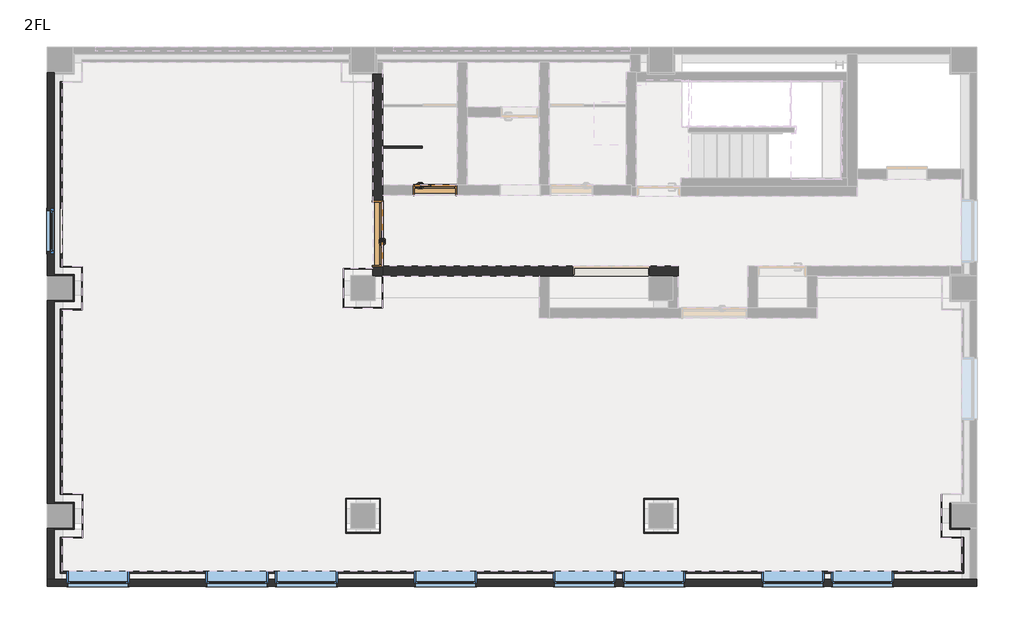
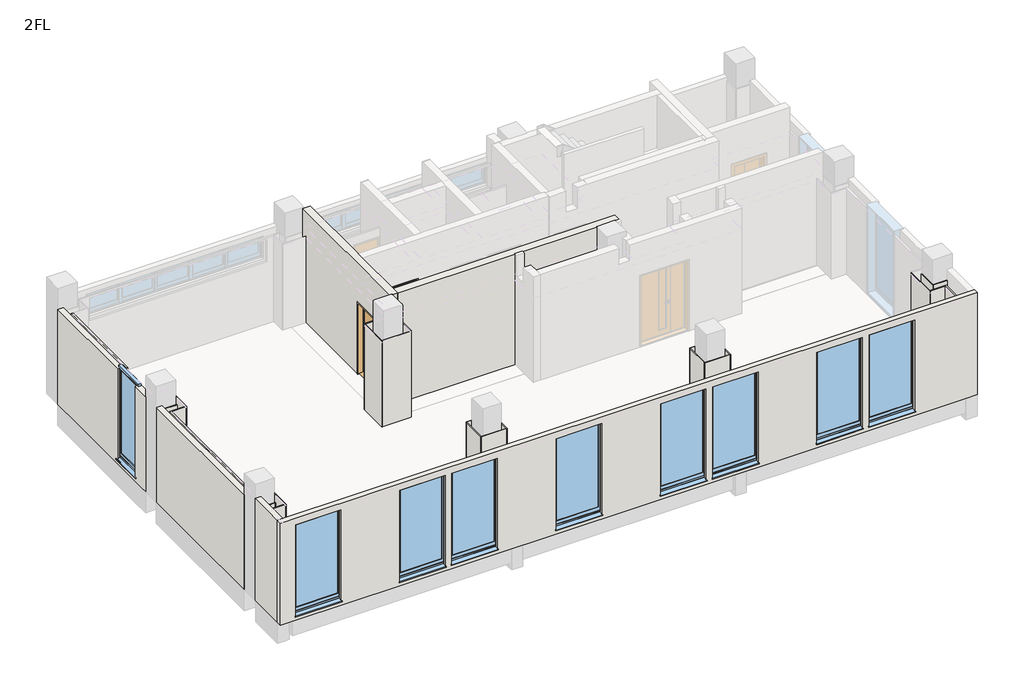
# One storey, part 1 of 4: 38 walls, 9 windows, 2 doors.
"""IFC4 building model written with IfcOpenShell, lengths in millimetres."""

from ifc_helpers import new_model, si_unit, frame, origin, place, context, project, spatial, polyline, outline, extrude, faceted_brep, transform, mapped, element, save
from components import door_c7ba6d99, door_a8025d8c, window_becbf3bb, window_02fdaeb4

model = new_model("IFC4")

# Units and contexts
model_context = context("Model", 3, world=origin())
ifc_project = project(units=[si_unit("LENGTHUNIT", "METRE", prefix="MILLI")], contexts=[model_context])

# Site, building, storey
site = spatial("IfcSite", under=ifc_project)
building = spatial("IfcBuilding", under=site)
storey = spatial("IfcBuildingStorey", under=building, Name="2FL", Elevation=3400.0)

# Doors
placement = place(None, origin())
door_shape = door_c7ba6d99(model_context)
element("IfcDoor", 1, ObjectType="140_片開扉_スリットガラリ付 : SD9_H2000W800", at=placement, inside=storey, context=model_context, shape_type="MappedRepresentation", body=[
    mapped(door_shape, transform((7540.0, 6565.5, 3400.0), x_axis=(1.0, 0.0, 0.0), y_axis=(0.0, 1.0, 0.0), z_axis=(0.0, 0.0, 1.0))),
])
door_2_shape = door_a8025d8c(model_context)
element("IfcDoor", 2, ObjectType="C_親子扉_スリット窓付_パネル : SD8_W1250XH2000", at=placement, inside=storey, context=model_context, shape_type="MappedRepresentation", body=[
    mapped(door_2_shape, transform((6390.0, 5687.5, 3400.0), x_axis=(0.0, 1.0, 0.0), y_axis=(-1.0, 0.0, 0.0), z_axis=(0.0, 0.0, 1.0))),
])

# Walls
element("IfcWall", 3, ObjectType="•_RC120+押出法ポリスチレンフォーム1種 t25", at=placement, inside=storey, context=model_context, shape_type="Brep", body=[
    faceted_brep([(-270.0, 5330.0, 3375.0), (-270.0, 6150.0, 3375.0), (-270.0, 6150.0, 3430.0), (-270.0, 6150.0, 5950.0), (-270.0, 8930.0, 5950.0), (-270.0, 8930.0, 3250.0), (-270.0, 4840.0, 3250.0), (-270.0, 4840.0, 5950.0), (-270.0, 5330.0, 5950.0), (-270.0, 5330.0, 3430.0), (-125.0, 6200.0, 3445.0), (-125.0, 5280.0, 3445.0), (-125.0, 5280.0, 5950.0), (-125.0, 4840.0, 5950.0), (-125.0, 4840.0, 5850.0), (-125.0, 4840.0, 3250.0), (-125.0, 4865.0, 3250.0), (-125.0, 8905.000056, 3250.0), (-125.0, 8930.0, 3250.0), (-125.0, 8930.0, 5850.0), (-125.0, 8930.0, 5950.0), (-125.0, 6200.0, 5950.0), (-210.0, 6200.0, 3375.0), (-140.0, 6200.0, 3375.0), (-140.0, 6200.0, 3445.0), (-210.0, 6200.0, 5950.0), (-140.0, 5280.0, 3445.0), (-140.0, 5280.0, 3375.0), (-210.0, 5280.0, 3375.0), (-210.0, 5280.0, 5950.0), (-210.0, 6150.0, 3375.0), (-210.0, 5330.0, 3375.0), (-210.0, 6150.0, 5950.0), (-210.0, 5330.0, 5950.0)], [[[0, 1, 2, 3, 4, 5, 6, 7, 8, 9]], [[10, 11, 12, 13, 14, 15, 16, 17, 18, 19, 20, 21]], [[5, 18, 17, 16, 15, 6]], [[18, 5, 4, 20, 19]], [[22, 23, 24, 10, 21, 25]], [[26, 27, 28, 29, 12, 11]], [[24, 26, 11, 10]], [[23, 22, 30, 1, 0, 31, 28, 27]], [[30, 22, 25, 32]], [[28, 31, 33, 29]], [[24, 23, 27, 26]], [[1, 30, 32, 3, 2]], [[31, 0, 9, 8, 33]], [[4, 3, 32, 25, 21, 20]], [[8, 7, 13, 12, 29, 33]], [[6, 15, 14, 13, 7]]]),
    faceted_brep([(-270.0, -1275.0, 3250.0), (-270.0, -1275.0, 6150.0), (-270.0, -1242.7, 6150.0), (-270.0, -250.0, 6150.0), (-270.0, -250.0, 3250.0), (-270.0, -270.0, 3250.0), (-125.0, -1275.0, 6150.0), (-125.0, -1275.0, 3250.0), (-125.0, -275.0000858, 3250.0), (-125.0, -250.0, 3250.0), (-125.0, -250.0, 5850.0), (-125.0, -250.0, 6150.0)], [[[0, 1, 2, 3, 4, 5]], [[6, 7, 8, 9, 10, 11]], [[7, 0, 5, 4, 9, 8]], [[1, 6, 11, 3, 2]], [[4, 3, 11, 10, 9]], [[1, 0, 7, 6]]]),
    faceted_brep([(-270.0, 4340.0, 5950.0), (-270.0, 4340.0, 3250.0), (-270.0, 250.0, 3250.0), (-270.0, 250.0, 5950.0), (-125.0, 4340.0, 3250.0), (-125.0, 4340.0, 5850.0), (-125.0, 4340.0, 5950.0), (-125.0, 250.0000006, 5950.0), (-125.0, 250.0, 5850.0), (-125.0, 250.0, 3250.0), (-125.0, 274.9999201, 3250.0), (-125.0, 4314.9999543, 3250.0)], [[[0, 1, 2, 3]], [[4, 5, 6, 7, 8, 9, 10, 11]], [[1, 4, 11, 10, 9, 2]], [[4, 1, 0, 6, 5]], [[0, 3, 7, 6]], [[3, 2, 9, 8, 7]]]),
])
element("IfcWall", 4, ObjectType="•_RC120+押出法ポリスチレンフォーム1種 t25", at=placement, inside=storey, context=model_context, shape_type="Brep", body=[
    faceted_brep([(-270.0, -1420.0, 3250.0), (50.0, -1420.0, 3250.0), (5940.0, -1420.0, 3250.0), (6240.0, -1420.0, 3250.0), (11891.0054083, -1420.0, 3250.0), (11940.0, -1420.0, 3250.0), (12240.0, -1420.0, 3250.0), (18130.0, -1420.0, 3250.0), (18450.0, -1420.0, 3250.0), (18450.0, -1420.0, 6150.0), (12180.0, -1420.0, 6150.0), (12000.0, -1420.0, 6150.0), (6180.0, -1420.0, 6150.0), (6000.0, -1420.0, 6150.0), (-270.0, -1420.0, 6150.0), (1360.0, -1420.0, 3375.0), (140.0, -1420.0, 3375.0), (140.0, -1420.0, 3430.0), (140.0, -1420.0, 5960.0), (1360.0, -1420.0, 5960.0), (1360.0, -1420.0, 3430.0), (4160.0, -1420.0, 3375.0), (2940.0, -1420.0, 3375.0), (2940.0, -1420.0, 5960.0), (4160.0, -1420.0, 5960.0), (5560.0, -1420.0, 3375.0), (4340.0, -1420.0, 3375.0), (4340.0, -1420.0, 5960.0), (5560.0, -1420.0, 5960.0), (8359.9597717, -1420.0, 3375.0), (7139.9597717, -1420.0, 3375.0), (7139.9597717, -1420.0, 5960.0), (8359.9597717, -1420.0, 5960.0), (11160.0, -1420.0, 3375.0), (9940.0, -1420.0, 3375.0), (9940.0, -1420.0, 5960.0), (11160.0, -1420.0, 5960.0), (12560.0, -1420.0, 3375.0), (11340.0, -1420.0, 3375.0), (11340.0, -1420.0, 5960.0), (12560.0, -1420.0, 5960.0), (15360.0, -1420.0, 3375.0), (14140.0, -1420.0, 3375.0), (14140.0, -1420.0, 5960.0), (15360.0, -1420.0, 5960.0), (16759.9597717, -1420.0, 3375.0), (15539.9597717, -1420.0, 3375.0), (15539.9597717, -1420.0, 5960.0), (16759.9597717, -1420.0, 5960.0), (18450.0, -1275.0, 3250.0), (18305.0, -1275.0, 3250.0), (50.0, -1275.0, 3250.0), (-125.0, -1275.0, 3250.0), (-270.0, -1275.0, 3250.0), (-270.0, -1275.0, 6150.0), (-125.0, -1275.0, 6150.0), (18305.0, -1275.0, 6150.0), (18450.0, -1275.0, 6150.0), (1380.0, -1275.0, 5980.0), (120.0, -1275.0, 5980.0), (120.0, -1275.0, 3375.0), (1380.0, -1275.0, 3375.0), (15519.9597717, -1275.0, 5980.0), (15519.9597717, -1275.0, 3375.0), (16779.9597717, -1275.0, 3375.0), (16779.9597717, -1275.0, 5980.0), (14120.0, -1275.0, 5980.0), (14120.0, -1275.0, 3375.0), (15380.0, -1275.0, 3375.0), (15380.0, -1275.0, 5980.0), (11320.0, -1275.0, 5980.0), (11320.0, -1275.0, 3375.0), (12580.0, -1275.0, 3375.0), (12580.0, -1275.0, 5980.0), (9920.0, -1275.0, 5980.0), (9920.0, -1275.0, 3375.0), (11180.0, -1275.0, 3375.0), (11180.0, -1275.0, 5980.0), (7119.9597717, -1275.0, 5980.0), (7119.9597717, -1275.0, 3375.0), (8379.9597717, -1275.0, 3375.0), (8379.9597717, -1275.0, 5980.0), (4320.0, -1275.0, 5980.0), (4320.0, -1275.0, 3375.0), (5580.0, -1275.0, 3375.0), (5580.0, -1275.0, 5980.0), (2920.0, -1275.0, 5980.0), (2920.0, -1275.0, 3375.0), (4180.0, -1275.0, 3375.0), (4180.0, -1275.0, 5980.0), (1380.0, -1360.0, 5980.0), (120.0, -1360.0, 5980.0), (120.0, -1360.0, 3375.0), (1380.0, -1360.0, 3375.0), (140.0, -1360.0, 3375.0), (1360.0, -1360.0, 3375.0), (1360.0, -1360.0, 5960.0), (140.0, -1360.0, 5960.0), (2920.0, -1360.0, 3375.0), (2940.0, -1360.0, 3375.0), (4160.0, -1360.0, 3375.0), (4180.0, -1360.0, 3375.0), (2920.0, -1360.0, 5980.0), (4180.0, -1360.0, 5980.0), (4160.0, -1360.0, 5960.0), (2940.0, -1360.0, 5960.0), (4320.0, -1360.0, 3375.0), (4340.0, -1360.0, 3375.0), (5560.0, -1360.0, 3375.0), (5580.0, -1360.0, 3375.0), (4320.0, -1360.0, 5980.0), (5580.0, -1360.0, 5980.0), (5560.0, -1360.0, 5960.0), (4340.0, -1360.0, 5960.0), (7119.9597717, -1360.0, 3375.0), (7139.9597717, -1360.0, 3375.0), (8359.9597717, -1360.0, 3375.0), (8379.9597717, -1360.0, 3375.0), (7119.9597717, -1360.0, 5980.0), (8379.9597717, -1360.0, 5980.0), (8359.9597717, -1360.0, 5960.0), (7139.9597717, -1360.0, 5960.0), (9920.0, -1360.0, 3375.0), (9940.0, -1360.0, 3375.0), (11160.0, -1360.0, 3375.0), (11180.0, -1360.0, 3375.0), (9920.0, -1360.0, 5980.0), (11180.0, -1360.0, 5980.0), (11160.0, -1360.0, 5960.0), (9940.0, -1360.0, 5960.0), (11320.0, -1360.0, 3375.0), (11340.0, -1360.0, 3375.0), (12560.0, -1360.0, 3375.0), (12580.0, -1360.0, 3375.0), (11320.0, -1360.0, 5980.0), (12580.0, -1360.0, 5980.0), (12560.0, -1360.0, 5960.0), (11340.0, -1360.0, 5960.0), (14120.0, -1360.0, 3375.0), (14140.0, -1360.0, 3375.0), (15360.0, -1360.0, 3375.0), (15380.0, -1360.0, 3375.0), (14120.0, -1360.0, 5980.0), (15380.0, -1360.0, 5980.0), (15360.0, -1360.0, 5960.0), (14140.0, -1360.0, 5960.0), (15519.9597717, -1360.0, 3375.0), (15539.9597717, -1360.0, 3375.0), (16759.9597717, -1360.0, 3375.0), (16779.9597717, -1360.0, 3375.0), (15519.9597717, -1360.0, 5980.0), (16779.9597717, -1360.0, 5980.0), (16759.9597717, -1360.0, 5960.0), (15539.9597717, -1360.0, 5960.0)], [[[0, 1, 2, 3, 4, 5, 6, 7, 8, 9, 10, 11, 12, 13, 14], [15, 16, 17, 18, 19, 20], [21, 22, 23, 24], [25, 26, 27, 28], [29, 30, 31, 32], [33, 34, 35, 36], [37, 38, 39, 40], [41, 42, 43, 44], [45, 46, 47, 48]], [[49, 50, 51, 52, 53, 54, 55, 56, 57], [58, 59, 60, 61], [62, 63, 64, 65], [66, 67, 68, 69], [70, 71, 72, 73], [74, 75, 76, 77], [78, 79, 80, 81], [82, 83, 84, 85], [86, 87, 88, 89]], [[8, 7, 6, 5, 4, 3, 2, 1, 0, 53, 52, 51, 50, 49]], [[90, 91, 59, 58]], [[91, 92, 60, 59]], [[93, 90, 58, 61]], [[94, 16, 15, 95, 93, 61, 60, 92]], [[92, 91, 90, 93, 95, 96, 97, 94]], [[16, 94, 97, 18, 17]], [[95, 15, 20, 19, 96]], [[97, 96, 19, 18]], [[98, 99, 22, 21, 100, 101, 88, 87]], [[98, 102, 103, 101, 100, 104, 105, 99]], [[22, 99, 105, 23]], [[100, 21, 24, 104]], [[105, 104, 24, 23]], [[106, 107, 26, 25, 108, 109, 84, 83]], [[106, 110, 111, 109, 108, 112, 113, 107]], [[26, 107, 113, 27]], [[108, 25, 28, 112]], [[113, 112, 28, 27]], [[114, 115, 30, 29, 116, 117, 80, 79]], [[114, 118, 119, 117, 116, 120, 121, 115]], [[30, 115, 121, 31]], [[116, 29, 32, 120]], [[121, 120, 32, 31]], [[122, 123, 34, 33, 124, 125, 76, 75]], [[122, 126, 127, 125, 124, 128, 129, 123]], [[34, 123, 129, 35]], [[124, 33, 36, 128]], [[129, 128, 36, 35]], [[130, 131, 38, 37, 132, 133, 72, 71]], [[130, 134, 135, 133, 132, 136, 137, 131]], [[38, 131, 137, 39]], [[132, 37, 40, 136]], [[137, 136, 40, 39]], [[138, 139, 42, 41, 140, 141, 68, 67]], [[138, 142, 143, 141, 140, 144, 145, 139]], [[42, 139, 145, 43]], [[140, 41, 44, 144]], [[145, 144, 44, 43]], [[146, 147, 46, 45, 148, 149, 64, 63]], [[146, 150, 151, 149, 148, 152, 153, 147]], [[46, 147, 153, 47]], [[148, 45, 48, 152]], [[153, 152, 48, 47]], [[9, 57, 56, 55, 54, 14, 13, 12, 11, 10]], [[150, 146, 63, 62]], [[149, 151, 65, 64]], [[151, 150, 62, 65]], [[142, 138, 67, 66]], [[141, 143, 69, 68]], [[143, 142, 66, 69]], [[134, 130, 71, 70]], [[133, 135, 73, 72]], [[135, 134, 70, 73]], [[126, 122, 75, 74]], [[125, 127, 77, 76]], [[127, 126, 74, 77]], [[118, 114, 79, 78]], [[117, 119, 81, 80]], [[119, 118, 78, 81]], [[110, 106, 83, 82]], [[109, 111, 85, 84]], [[111, 110, 82, 85]], [[102, 98, 87, 86]], [[101, 103, 89, 88]], [[103, 102, 86, 89]], [[8, 49, 57, 9]], [[53, 0, 14, 54]]]),
])
element("IfcWall", 5, ObjectType="•RC30+12.5", at=placement, inside=storey, context=model_context, shape_type="Brep", body=[
    faceted_brep([(-10.0001232, -1160.0000822, 3250.0), (18190.0000006, -1160.0000822, 3250.0), (18190.0000006, -1160.0000822, 5850.0), (16779.9597717, -1160.0000822, 5850.0), (16779.9597717, -1160.0000822, 3445.0), (15519.9597717, -1160.0000822, 3445.0), (15519.9597717, -1160.0000822, 5850.0), (15380.0, -1160.0000822, 5850.0), (15380.0, -1160.0000822, 3445.0), (14120.0, -1160.0000822, 3445.0), (14120.0, -1160.0000822, 5850.0), (12580.0, -1160.0000822, 5850.0), (12580.0, -1160.0000822, 3445.0), (11320.0, -1160.0000822, 3445.0), (11320.0, -1160.0000822, 5850.0), (11180.0, -1160.0000822, 5850.0), (11180.0, -1160.0000822, 3445.0), (9920.0, -1160.0000822, 3445.0), (9920.0, -1160.0000822, 5850.0), (8379.9597717, -1160.0000822, 5850.0), (8379.9597717, -1160.0000822, 3445.0), (7119.9597717, -1160.0000822, 3445.0), (7119.9597717, -1160.0000822, 5850.0), (5580.0, -1160.0000822, 5850.0), (5580.0, -1160.0000822, 3445.0), (4320.0, -1160.0000822, 3445.0), (4320.0, -1160.0000822, 5850.0), (4180.0, -1160.0000822, 5850.0), (4180.0, -1160.0000822, 3445.0), (2920.0, -1160.0000822, 3445.0), (2920.0, -1160.0000822, 5850.0), (1380.0, -1160.0000822, 5850.0), (1380.0, -1160.0000822, 3445.0), (120.0, -1160.0000822, 3445.0), (120.0, -1160.0000822, 5850.0), (-10.0001232, -1160.0000822, 5850.0), (18147.5000006, -1160.0000822, 3350.0), (32.4998768, -1160.0000822, 3350.0), (32.4998768, -1160.0000822, 3400.0), (18147.5000006, -1160.0000822, 3400.0), (18190.0000006, -1117.5000822, 3250.0), (18147.5000006, -1117.5000822, 3250.0), (32.4998768, -1117.5000822, 3250.0), (-10.0001232, -1117.5000822, 3250.0), (-10.0001232, -1117.5000822, 5850.0), (32.4998768, -1117.5000822, 5850.0), (120.0, -1117.5000822, 5850.0), (120.0, -1117.5000822, 3445.0), (1380.0, -1117.5000822, 3445.0), (1380.0, -1117.5000822, 5850.0), (2920.0, -1117.5000822, 5850.0), (2920.0, -1117.5000822, 3445.0), (4180.0, -1117.5000822, 3445.0), (4180.0, -1117.5000822, 5850.0), (4320.0, -1117.5000822, 5850.0), (4320.0, -1117.5000822, 3445.0), (5580.0, -1117.5000822, 3445.0), (5580.0, -1117.5000822, 5850.0), (7119.9597717, -1117.5000822, 5850.0), (7119.9597717, -1117.5000822, 3445.0), (8379.9597717, -1117.5000822, 3445.0), (8379.9597717, -1117.5000822, 5850.0), (9920.0, -1117.5000822, 5850.0), (9920.0, -1117.5000822, 3445.0), (11180.0, -1117.5000822, 3445.0), (11180.0, -1117.5000822, 5850.0), (11320.0, -1117.5000822, 5850.0), (11320.0, -1117.5000822, 3445.0), (12580.0, -1117.5000822, 3445.0), (12580.0, -1117.5000822, 5850.0), (14120.0, -1117.5000822, 5850.0), (14120.0, -1117.5000822, 3445.0), (15380.0, -1117.5000822, 3445.0), (15380.0, -1117.5000822, 5850.0), (15519.9597717, -1117.5000822, 5850.0), (15519.9597717, -1117.5000822, 3445.0), (16779.9597717, -1117.5000822, 3445.0), (16779.9597717, -1117.5000822, 5850.0), (18147.5000006, -1117.5000822, 5850.0), (18190.0000006, -1117.5000822, 5850.0), (32.4998768, -1117.5000822, 3350.0), (18147.5000006, -1117.5000822, 3350.0), (18147.5000006, -1117.5000822, 3400.0), (32.4998768, -1117.5000822, 3400.0)], [[[0, 1, 2, 3, 4, 5, 6, 7, 8, 9, 10, 11, 12, 13, 14, 15, 16, 17, 18, 19, 20, 21, 22, 23, 24, 25, 26, 27, 28, 29, 30, 31, 32, 33, 34, 35], [36, 37, 38, 39]], [[40, 41, 42, 43, 44, 45, 46, 47, 48, 49, 50, 51, 52, 53, 54, 55, 56, 57, 58, 59, 60, 61, 62, 63, 64, 65, 66, 67, 68, 69, 70, 71, 72, 73, 74, 75, 76, 77, 78, 79], [80, 81, 82, 83]], [[1, 0, 43, 42, 41, 40]], [[44, 35, 34, 46, 45]], [[2, 79, 78, 77, 3]], [[49, 31, 30, 50]], [[53, 27, 26, 54]], [[57, 23, 22, 58]], [[61, 19, 18, 62]], [[65, 15, 14, 66]], [[69, 11, 10, 70]], [[73, 7, 6, 74]], [[0, 35, 44, 43]], [[2, 1, 40, 79]], [[32, 48, 47, 33]], [[33, 47, 46, 34]], [[48, 32, 31, 49]], [[28, 52, 51, 29]], [[29, 51, 50, 30]], [[52, 28, 27, 53]], [[24, 56, 55, 25]], [[25, 55, 54, 26]], [[56, 24, 23, 57]], [[20, 60, 59, 21]], [[21, 59, 58, 22]], [[60, 20, 19, 61]], [[16, 64, 63, 17]], [[17, 63, 62, 18]], [[64, 16, 15, 65]], [[12, 68, 67, 13]], [[13, 67, 66, 14]], [[68, 12, 11, 69]], [[8, 72, 71, 9]], [[9, 71, 70, 10]], [[72, 8, 7, 73]], [[4, 76, 75, 5]], [[5, 75, 74, 6]], [[76, 4, 3, 77]], [[36, 81, 80, 37]], [[38, 83, 82, 39]], [[81, 36, 39, 82]], [[37, 80, 83, 38]]]),
])
element("IfcWall", 6, ObjectType="•RC30+12.5", at=placement, inside=storey, context=model_context, shape_type="Brep", body=[
    faceted_brep([(-10.0, 4164.0, 3250.0), (-10.0, 429.9996399, 3250.0), (-10.0, 429.9996399, 5850.0), (-10.0, 4164.0, 5850.0), (32.5, 4164.0, 3250.0), (32.5, 4164.0, 5850.0), (32.5, 4151.5, 5850.0), (32.5, 442.4996399, 5850.0), (32.5, 429.9996399, 5850.0), (32.5, 429.9996399, 3250.0), (32.5, 442.4996399, 3250.0), (32.5, 4151.5, 3250.0)], [[[0, 1, 2, 3]], [[4, 5, 6, 7, 8, 9, 10, 11]], [[1, 0, 4, 11, 10, 9]], [[3, 2, 8, 7, 6, 5]], [[0, 3, 5, 4]], [[2, 1, 9, 8]]]),
])
element("IfcWall", 7, ObjectType="•RC30+12.5", at=placement, inside=storey, context=model_context, shape_type="Brep", body=[
    faceted_brep([(-10.0001232, -429.9999706, 3250.0), (-10.0001232, -1117.5000822, 3250.0), (-10.0001232, -1117.5000822, 5850.0), (-10.0001232, -429.9999706, 5850.0), (32.4998768, -429.9999706, 3250.0), (32.4998768, -429.9999706, 5850.0), (32.4998768, -442.4999706, 5850.0), (32.4998768, -1117.5000822, 5850.0), (32.4998768, -1117.5000822, 3250.0), (32.4998768, -442.4999706, 3250.0)], [[[0, 1, 2, 3]], [[4, 5, 6, 7, 8, 9]], [[1, 0, 4, 9, 8]], [[3, 2, 7, 6, 5]], [[2, 1, 8, 7]], [[0, 3, 5, 4]]]),
])
element("IfcWall", 8, ObjectType="•RC30+12.5", at=placement, inside=storey, context=model_context, shape_type="Brep", body=[
    faceted_brep([(32.4999974, 5016.0, 3250.0), (32.4999974, 5028.5, 3250.0), (32.4999974, 8741.5, 3250.0), (32.4999974, 8754.0, 3250.0), (32.4999974, 8754.0, 5850.0), (32.4999974, 8741.5, 5850.0), (32.4999974, 6200.0, 5850.0), (32.4999974, 6200.0, 3445.0), (32.4999974, 5280.0, 3445.0), (32.4999974, 5280.0, 5850.0), (32.4999974, 5028.5, 5850.0), (32.4999974, 5016.0, 5850.0), (-10.0000026, 8754.0, 3250.0), (-10.0000026, 5016.0, 3250.0), (-10.0000026, 5016.0, 5850.0), (-10.0000026, 5280.0, 5850.0), (-10.0000026, 5280.0, 3445.0), (-10.0000026, 6200.0, 3445.0), (-10.0000026, 6200.0, 5850.0), (-10.0000026, 8754.0, 5850.0)], [[[0, 1, 2, 3, 4, 5, 6, 7, 8, 9, 10, 11]], [[12, 13, 14, 15, 16, 17, 18, 19]], [[3, 2, 1, 0, 13, 12]], [[14, 11, 10, 9, 15]], [[4, 19, 18, 6, 5]], [[0, 11, 14, 13]], [[4, 3, 12, 19]], [[7, 17, 16, 8]], [[8, 16, 15, 9]], [[17, 7, 6, 18]]]),
])
element("IfcWall", 9, ObjectType="•RC30+12.5", at=placement, inside=storey, context=model_context, shape_type="Brep", body=[
    faceted_brep([(18190.0000006, -1117.5000822, 3250.0), (18190.0000006, -430.0001201, 3250.0), (18190.0000006, -430.0001201, 5850.0), (18190.0000006, -1117.5000822, 5850.0), (18147.5000006, -1117.5000822, 3250.0), (18147.5000006, -1117.5000822, 5850.0), (18147.5000006, -442.5001201, 5850.0), (18147.5000006, -430.0001201, 5850.0), (18147.5000006, -430.0001201, 3250.0), (18147.5000006, -442.5001201, 3250.0)], [[[0, 1, 2, 3]], [[4, 5, 6, 7, 8, 9]], [[1, 0, 4, 9, 8]], [[3, 2, 7, 6, 5]], [[2, 1, 8, 7]], [[0, 3, 5, 4]]]),
])
element("IfcWall", 10, ObjectType="•t=25mm", at=placement, inside=storey, context=model_context, shape_type="Brep", body=[
    faceted_brep([(-125.0, 249.9999201, 3250.0), (250.0000575, 249.9999201, 3250.0), (275.0000575, 249.9999201, 3250.0), (275.0000575, 249.9999201, 5850.0), (250.0000575, 249.9999201, 5850.0), (-125.0, 249.9999201, 5850.0), (-125.0, 274.9999201, 3250.0), (-125.0, 274.9999201, 5850.0), (275.0000575, 274.9999201, 5850.0), (275.0000575, 274.9999201, 3250.0)], [[[0, 1, 2, 3, 4, 5]], [[6, 7, 8, 9]], [[2, 1, 0, 6, 9]], [[5, 4, 3, 8, 7]], [[0, 5, 7, 6]], [[3, 2, 9, 8]]]),
])
element("IfcWall", 11, ObjectType="•t=25mm", at=placement, inside=storey, context=model_context, shape_type="Brep", body=[
    faceted_brep([(250.0000575, 249.9999201, 3250.0), (250.0000575, -250.0000858, 3250.0), (250.0000575, -275.0000858, 3250.0), (250.0000575, -275.0000858, 5850.0), (250.0000575, -250.0000858, 5850.0), (250.0000575, 249.9999201, 5850.0), (275.0000575, 249.9999201, 3250.0), (275.0000575, 249.9999201, 5850.0), (275.0000575, -275.0000858, 5850.0), (275.0000575, -275.0000858, 3250.0)], [[[0, 1, 2, 3, 4, 5]], [[6, 7, 8, 9]], [[2, 1, 0, 6, 9]], [[5, 4, 3, 8, 7]], [[0, 5, 7, 6]], [[3, 2, 9, 8]]]),
])
element("IfcWall", 12, ObjectType="•t=25mm", at=placement, inside=storey, context=model_context, shape_type="SweptSolid", body=[
    extrude(outline(polyline([(-125.0, -250.0000858), (250.0000575, -250.0000858), (250.0000575, -275.0000858), (-125.0, -275.0000858), (-125.0, -250.0000858)])), frame((0.0, 0.0, 3250.0), z_axis=(0.0, 0.0, 1.0), x_axis=(1.0, 0.0, 0.0)), (0.0, 0.0, 1.0), 2600.0),
])
element("IfcWall", 13, ObjectType="•t=25mm", at=placement, inside=storey, context=model_context, shape_type="Brep", body=[
    faceted_brep([(-125.0, 4314.9999543, 3250.0), (275.0, 4314.9999543, 3250.0), (275.0, 4314.9999543, 5850.0), (-125.0, 4314.9999543, 5850.0), (-125.0, 4339.9999543, 3250.0), (-125.0, 4339.9999543, 5850.0), (250.0, 4339.9999543, 5850.0), (275.0, 4339.9999543, 5850.0), (275.0, 4339.9999543, 3250.0), (250.0, 4339.9999543, 3250.0)], [[[0, 1, 2, 3]], [[4, 5, 6, 7, 8, 9]], [[1, 0, 4, 9, 8]], [[3, 2, 7, 6, 5]], [[0, 3, 5, 4]], [[2, 1, 8, 7]]]),
])
element("IfcWall", 14, ObjectType="•t=25mm", at=placement, inside=storey, context=model_context, shape_type="Brep", body=[
    faceted_brep([(275.0, 4339.9999543, 3250.0), (275.0, 4865.0, 3250.0), (275.0, 4865.0, 5850.0), (275.0, 4339.9999543, 5850.0), (250.0, 4339.9999543, 3250.0), (250.0, 4339.9999543, 5850.0), (250.0, 4840.0, 5850.0), (250.0, 4865.0, 5850.0), (250.0, 4865.0, 3250.0), (250.0, 4840.0, 3250.0)], [[[0, 1, 2, 3]], [[4, 5, 6, 7, 8, 9]], [[1, 0, 4, 9, 8]], [[3, 2, 7, 6, 5]], [[0, 3, 5, 4]], [[2, 1, 8, 7]]]),
])
element("IfcWall", 15, ObjectType="•t=25mm", at=placement, inside=storey, context=model_context, shape_type="SweptSolid", body=[
    extrude(outline(polyline([(-125.0, 4865.0), (250.0, 4865.0), (250.0, 4840.0), (-125.0, 4840.0), (-125.0, 4865.0)])), frame((0.0, 0.0, 3250.0), z_axis=(0.0, 0.0, 1.0), x_axis=(1.0, 0.0, 0.0)), (0.0, 0.0, 1.0), 2600.0),
])
element("IfcWall", 16, ObjectType="•t=25mm", at=placement, inside=storey, context=model_context, shape_type="Brep", body=[
    faceted_brep([(17904.999971, 249.9999009, 3250.0), (17904.999971, -275.0000644, 3250.0), (17904.999971, -275.0000644, 5850.0), (17904.999971, 249.9999009, 5850.0), (17929.999971, 249.9999009, 3250.0), (17929.999971, 249.9999009, 5850.0), (17929.999971, -250.0000644, 5850.0), (17929.999971, -275.0000644, 5850.0), (17929.999971, -275.0000644, 3250.0), (17929.999971, -250.0000644, 3250.0)], [[[0, 1, 2, 3]], [[4, 5, 6, 7, 8, 9]], [[1, 0, 4, 9, 8]], [[3, 2, 7, 6, 5]], [[0, 3, 5, 4]], [[2, 1, 8, 7]]]),
])
element("IfcWall", 17, ObjectType="•t=25mm", at=placement, inside=storey, context=model_context, shape_type="SweptSolid", body=[
    extrude(outline(polyline([(18305.0, -275.0000644), (17929.999971, -275.0000644), (17929.999971, -250.0000644), (18305.0, -250.0000644), (18305.0, -275.0000644)])), frame((0.0, 0.0, 3250.0), z_axis=(0.0, 0.0, 1.0), x_axis=(1.0, 0.0, 0.0)), (0.0, 0.0, 1.0), 2600.0),
])
element("IfcWall", 18, ObjectType="•PB12.5", at=placement, inside=storey, context=model_context, shape_type="Brep", body=[
    faceted_brep([(32.4999974, 5016.0, 3250.0), (426.0, 5016.0, 3250.0), (438.5, 5016.0, 3250.0), (438.5, 5016.0, 5850.0), (426.0, 5016.0, 5850.0), (32.4999974, 5016.0, 5850.0), (32.4999974, 5028.5, 3250.0), (32.4999974, 5028.5, 5850.0), (438.5, 5028.5, 5850.0), (438.5, 5028.5, 3250.0)], [[[0, 1, 2, 3, 4, 5]], [[6, 7, 8, 9]], [[2, 1, 0, 6, 9]], [[5, 4, 3, 8, 7]], [[0, 5, 7, 6]], [[3, 2, 9, 8]]]),
])
element("IfcWall", 19, ObjectType="•PB12.5", at=placement, inside=storey, context=model_context, shape_type="Brep", body=[
    faceted_brep([(426.0, 5016.0, 3250.0), (426.0, 4164.0, 3250.0), (426.0, 4151.5, 3250.0), (426.0, 4151.5, 5850.0), (426.0, 4164.0, 5850.0), (426.0, 5016.0, 5850.0), (438.5, 5016.0, 3250.0), (438.5, 5016.0, 5850.0), (438.5, 4151.5, 5850.0), (438.5, 4151.5, 3250.0)], [[[0, 1, 2, 3, 4, 5]], [[6, 7, 8, 9]], [[2, 1, 0, 6, 9]], [[5, 4, 3, 8, 7]], [[0, 5, 7, 6]], [[3, 2, 9, 8]]]),
])
element("IfcWall", 20, ObjectType="•PB12.5", at=placement, inside=storey, context=model_context, shape_type="SweptSolid", body=[
    extrude(outline(polyline([(32.5, 4164.0), (426.0, 4164.0), (426.0, 4151.5), (32.5, 4151.5), (32.5, 4164.0)])), frame((0.0, 0.0, 3250.0), z_axis=(0.0, 0.0, 1.0), x_axis=(1.0, 0.0, 0.0)), (0.0, 0.0, 1.0), 2600.0),
])
element("IfcWall", 21, ObjectType="•PB12.5", at=placement, inside=storey, context=model_context, shape_type="Brep", body=[
    faceted_brep([(32.5, 429.9996399, 3250.0), (436.0, 429.9996399, 3250.0), (448.5, 429.9996399, 3250.0), (448.5, 429.9996399, 5850.0), (436.0, 429.9996399, 5850.0), (32.5, 429.9996399, 5850.0), (32.5, 442.4996399, 3250.0), (32.5, 442.4996399, 5850.0), (448.5, 442.4996399, 5850.0), (448.5, 442.4996399, 3250.0)], [[[0, 1, 2, 3, 4, 5]], [[6, 7, 8, 9]], [[2, 1, 0, 6, 9]], [[5, 4, 3, 8, 7]], [[0, 5, 7, 6]], [[3, 2, 9, 8]]]),
])
element("IfcWall", 22, ObjectType="•PB12.5", at=placement, inside=storey, context=model_context, shape_type="Brep", body=[
    faceted_brep([(436.0, 429.9996399, 3250.0), (436.0, -429.9999706, 3250.0), (436.0, -442.4999706, 3250.0), (436.0, -442.4999706, 5850.0), (436.0, -429.9999706, 5850.0), (436.0, 429.9996399, 5850.0), (448.5, 429.9996399, 3250.0), (448.5, 429.9996399, 5850.0), (448.5, -442.4999706, 5850.0), (448.5, -442.4999706, 3250.0)], [[[0, 1, 2, 3, 4, 5]], [[6, 7, 8, 9]], [[2, 1, 0, 6, 9]], [[5, 4, 3, 8, 7]], [[0, 5, 7, 6]], [[3, 2, 9, 8]]]),
])
element("IfcWall", 23, ObjectType="•PB12.5", at=placement, inside=storey, context=model_context, shape_type="SweptSolid", body=[
    extrude(outline(polyline([(32.4998768, -429.9999706), (436.0, -429.9999706), (436.0, -442.4999706), (32.4998768, -442.4999706), (32.4998768, -429.9999706)])), frame((0.0, 0.0, 3250.0), z_axis=(0.0, 0.0, 1.0), x_axis=(1.0, 0.0, 0.0)), (0.0, 0.0, 1.0), 2600.0),
])
element("IfcWall", 24, ObjectType="•PB12.5", at=placement, inside=storey, context=model_context, shape_type="Brep", body=[
    faceted_brep([(17731.5010313, 429.999689, 3250.0), (17731.5010313, -442.5001201, 3250.0), (17731.5010313, -442.5001201, 5850.0), (17731.5010313, 429.999689, 5850.0), (17744.0010313, 429.999689, 3250.0), (17744.0010313, 429.999689, 5850.0), (17744.0010313, -430.0001201, 5850.0), (17744.0010313, -442.5001201, 5850.0), (17744.0010313, -442.5001201, 3250.0), (17744.0010313, -430.0001201, 3250.0)], [[[0, 1, 2, 3]], [[4, 5, 6, 7, 8, 9]], [[1, 0, 4, 9, 8]], [[3, 2, 7, 6, 5]], [[0, 3, 5, 4]], [[2, 1, 8, 7]]]),
])
element("IfcWall", 25, ObjectType="•PB12.5", at=placement, inside=storey, context=model_context, shape_type="SweptSolid", body=[
    extrude(outline(polyline([(18147.5000006, -442.5001201), (17744.0010313, -442.5001201), (17744.0010313, -430.0001201), (18147.5000006, -430.0001201), (18147.5000006, -442.5001201)])), frame((0.0, 0.0, 3250.0), z_axis=(0.0, 0.0, 1.0), x_axis=(1.0, 0.0, 0.0)), (0.0, 0.0, 1.0), 2600.0),
])
element("IfcWall", 26, ObjectType="•RC200", at=placement, inside=storey, context=model_context, shape_type="Brep", body=[
    faceted_brep([(6290.0, 4840.0, 6540.0), (6290.0, 8905.0000823, 6540.0), (6290.0, 8905.0000823, 3390.0), (6290.0, 8754.0, 3390.0), (6290.0, 8741.5, 3390.0), (6290.0, 6352.5, 3390.0), (6290.0, 6352.5, 5440.0), (6290.0, 5022.5, 5440.0), (6290.0, 5022.5, 3390.0), (6290.0, 4988.5, 3390.0), (6290.0, 4976.0, 3390.0), (6290.0, 4840.0, 3390.0), (6490.0, 8905.0000823, 6540.0), (6490.0, 6665.5, 6540.0), (6490.0, 6465.5, 6540.0), (6490.0, 5030.0, 6540.0), (6490.0, 4830.0, 6540.0), (6490.0, 4830.0, 5850.0), (6490.0, 4830.0, 3390.0), (6490.0, 5022.5, 3390.0), (6490.0, 5022.5, 5440.0), (6490.0, 6352.5, 5440.0), (6490.0, 6352.5, 3390.0), (6490.0, 6465.5, 3390.0), (6490.0, 6665.5, 3390.0), (6490.0, 8905.0000823, 3390.0), (6364.9999033, 8905.0000823, 3390.0), (6340.0, 4830.0, 6540.0), (6340.0, 4830.0, 3390.0), (6477.4999994, 4830.0, 3390.0), (6340.0, 4840.0, 6540.0), (6340.0, 4840.0, 3390.0)], [[[0, 1, 2, 3, 4, 5, 6, 7, 8, 9, 10, 11]], [[12, 13, 14, 15, 16, 17, 18, 19, 20, 21, 22, 23, 24, 25]], [[1, 12, 25, 26, 2]], [[16, 27, 28, 29, 18, 17]], [[30, 0, 11, 31]], [[27, 30, 31, 28]], [[1, 0, 30, 27, 16, 15, 14, 13, 12]], [[11, 10, 9, 8, 19, 18, 29, 28, 31]], [[5, 4, 3, 2, 26, 25, 24, 23, 22]], [[7, 20, 19, 8]], [[21, 6, 5, 22]], [[7, 6, 21, 20]]]),
])
element("IfcWall", 27, ObjectType="•RC200", at=placement, inside=storey, context=model_context, shape_type="Brep", body=[
    faceted_brep([(10312.5, 4830.0, 3400.0), (10312.5, 4830.0, 5427.5), (11840.0, 4830.0, 5427.5), (11840.0, 4830.0, 6540.0), (6490.0, 4830.0, 6540.0), (6490.0, 4830.0, 3390.0), (9640.0, 4830.0, 3390.0), (9840.0, 4830.0, 3390.0), (11840.0, 4830.0, 3390.0), (11840.0, 4830.0, 3400.0), (12440.0, 4830.0, 6540.0), (12340.0, 4830.0, 6540.0), (12340.0, 4830.0, 3390.0), (12440.0, 4830.0, 3390.0), (6490.0, 5030.0, 6540.0), (12440.0, 5030.0, 6540.0), (12440.0, 5030.0, 3390.0), (6490.0, 5030.0, 3390.0), (11867.5, 5030.0, 3400.0), (11867.5, 5030.0, 5427.5), (10312.5, 5030.0, 5427.5), (10312.5, 5030.0, 3400.0), (6490.0, 5022.5, 3390.0), (11867.5, 4840.0, 5427.5), (11867.5, 4840.0, 3400.0), (11840.0, 4840.0, 3400.0), (11840.0, 4840.0, 3390.0), (12340.0, 4840.0, 3390.0), (12340.0, 4840.0, 6540.0), (12240.0, 4840.0, 6540.0), (11940.0, 4840.0, 6540.0), (11840.0, 4840.0, 6540.0), (11840.0, 4840.0, 5427.5)], [[[0, 1, 2, 3, 4, 5, 6, 7, 8, 9]], [[10, 11, 12, 13]], [[14, 15, 16, 17], [18, 19, 20, 21]], [[15, 10, 13, 16]], [[4, 14, 17, 22, 5]], [[23, 24, 25, 26, 27, 28, 29, 30, 31, 32]], [[25, 9, 8, 26]], [[2, 32, 31, 3]], [[11, 28, 27, 12]], [[19, 18, 24, 23]], [[18, 21, 0, 9, 25, 24]], [[1, 0, 21, 20]], [[20, 19, 23, 32, 2, 1]], [[11, 10, 15, 14, 4, 3, 31, 30, 29, 28]], [[8, 7, 6, 5, 22, 17, 16, 13, 12, 27, 26]]]),
])
element("IfcWall", 28, ObjectType="•PB12.5", at=placement, inside=storey, context=model_context, shape_type="Brep", body=[
    faceted_brep([(5687.4999426, 4988.5, 5850.0), (6290.0, 4988.5, 5850.0), (6290.0, 4988.5, 3390.0), (5890.0, 4988.5, 3390.0), (5890.0, 4988.5, 3250.0), (5687.4999426, 4988.5, 3250.0), (6290.0, 4976.0, 5850.0), (5699.9999426, 4976.0, 5850.0), (5687.4999426, 4976.0, 5850.0), (5687.4999426, 4976.0, 3250.0), (5699.9999426, 4976.0, 3250.0), (5890.0, 4976.0, 3250.0), (5890.0, 4976.0, 3390.0), (6290.0, 4976.0, 3390.0)], [[[0, 1, 2, 3, 4, 5]], [[6, 7, 8, 9, 10, 11, 12, 13]], [[9, 5, 4, 11, 10]], [[1, 0, 8, 7, 6]], [[1, 6, 13, 2]], [[0, 5, 9, 8]], [[12, 3, 2, 13]], [[3, 12, 11, 4]]]),
])
element("IfcWall", 29, ObjectType="•PB12.5", at=placement, inside=storey, context=model_context, shape_type="Brep", body=[
    faceted_brep([(5687.4999426, 4976.0, 3250.0), (5687.4999426, 4187.5000823, 3250.0), (5687.4999426, 4187.5000823, 5850.0), (5687.4999426, 4976.0, 5850.0), (5699.9999426, 4976.0, 3250.0), (5699.9999426, 4976.0, 5850.0), (5699.9999426, 4200.0000823, 5850.0), (5699.9999426, 4187.5000823, 5850.0), (5699.9999426, 4187.5000823, 3250.0), (5699.9999426, 4200.0000823, 3250.0)], [[[0, 1, 2, 3]], [[4, 5, 6, 7, 8, 9]], [[1, 0, 4, 9, 8]], [[3, 2, 7, 6, 5]], [[0, 3, 5, 4]], [[2, 1, 8, 7]]]),
])
element("IfcWall", 30, ObjectType="•PB12.5", at=placement, inside=storey, context=model_context, shape_type="Brep", body=[
    faceted_brep([(5699.9999426, 4187.5000823, 3250.0), (6489.9999994, 4187.5000823, 3250.0), (6489.9999994, 4187.5000823, 5850.0), (5699.9999426, 4187.5000823, 5850.0), (5699.9999426, 4200.0000823, 3250.0), (5699.9999426, 4200.0000823, 5850.0), (6477.4999994, 4200.0000823, 5850.0), (6489.9999994, 4200.0000823, 5850.0), (6489.9999994, 4200.0000823, 3250.0), (6477.4999994, 4200.0000823, 3250.0)], [[[0, 1, 2, 3]], [[4, 5, 6, 7, 8, 9]], [[1, 0, 4, 9, 8]], [[3, 2, 7, 6, 5]], [[0, 3, 5, 4]], [[2, 1, 8, 7]]]),
])
element("IfcWall", 31, ObjectType="•PB12.5", at=placement, inside=storey, context=model_context, shape_type="Brep", body=[
    faceted_brep([(6489.9999994, 4830.0, 5850.0), (6489.9999994, 4200.0000823, 5850.0), (6489.9999994, 4200.0000823, 3250.0), (6489.9999994, 4390.0, 3250.0), (6489.9999994, 4390.0, 3390.0), (6489.9999994, 4830.0, 3390.0), (6489.9999994, 4830.0, 3400.0), (6477.4999994, 4200.0000823, 5850.0), (6477.4999994, 4830.0, 5850.0), (6477.4999994, 4830.0, 3390.0), (6477.4999994, 4390.0, 3390.0), (6477.4999994, 4390.0, 3250.0), (6477.4999994, 4200.0000823, 3250.0)], [[[0, 1, 2, 3, 4, 5, 6]], [[7, 8, 9, 10, 11, 12]], [[2, 12, 11, 3]], [[1, 0, 8, 7]], [[2, 1, 7, 12]], [[8, 0, 6, 5, 9]], [[4, 10, 9, 5]], [[10, 4, 3, 11]]]),
])
element("IfcWall", 32, ObjectType="•PB12.5", at=placement, inside=storey, context=model_context, shape_type="Brep", body=[
    faceted_brep([(5740.0, 337.5, 3250.0), (5752.5, 337.5, 3250.0), (6427.5, 337.5, 3250.0), (6440.0, 337.5, 3250.0), (6440.0, 337.5, 5850.0), (6427.5, 337.5, 5850.0), (5752.5, 337.5, 5850.0), (5740.0, 337.5, 5850.0), (5740.0, 350.0, 3250.0), (5740.0, 350.0, 5850.0), (6440.0, 350.0, 5850.0), (6440.0, 350.0, 3250.0)], [[[0, 1, 2, 3, 4, 5, 6, 7]], [[8, 9, 10, 11]], [[3, 2, 1, 0, 8, 11]], [[7, 6, 5, 4, 10, 9]], [[4, 3, 11, 10]], [[0, 7, 9, 8]]]),
])
element("IfcWall", 33, ObjectType="•PB12.5", at=placement, inside=storey, context=model_context, shape_type="Brep", body=[
    faceted_brep([(6427.5, 337.5, 3250.0), (6427.5, -337.5, 3250.0), (6427.5, -350.0, 3250.0), (6427.5, -350.0, 5850.0), (6427.5, -337.5, 5850.0), (6427.5, 337.5, 5850.0), (6440.0, 337.5, 3250.0), (6440.0, 337.5, 5850.0), (6440.0, -350.0, 5850.0), (6440.0, -350.0, 3250.0)], [[[0, 1, 2, 3, 4, 5]], [[6, 7, 8, 9]], [[2, 1, 0, 6, 9]], [[5, 4, 3, 8, 7]], [[0, 5, 7, 6]], [[3, 2, 9, 8]]]),
])
element("IfcWall", 34, ObjectType="•PB12.5", at=placement, inside=storey, context=model_context, shape_type="Brep", body=[
    faceted_brep([(6427.5, -337.5, 3250.0), (5752.5, -337.5, 3250.0), (5740.0, -337.5, 3250.0), (5740.0, -337.5, 5850.0), (5752.5, -337.5, 5850.0), (6427.5, -337.5, 5850.0), (6427.5, -350.0, 3250.0), (6427.5, -350.0, 5850.0), (5740.0, -350.0, 5850.0), (5740.0, -350.0, 3250.0)], [[[0, 1, 2, 3, 4, 5]], [[6, 7, 8, 9]], [[2, 1, 0, 6, 9]], [[5, 4, 3, 8, 7]], [[0, 5, 7, 6]], [[3, 2, 9, 8]]]),
])
element("IfcWall", 35, ObjectType="•PB12.5", at=placement, inside=storey, context=model_context, shape_type="SweptSolid", body=[
    extrude(outline(polyline([(5752.5, 337.5), (5752.5, -337.5), (5740.0, -337.5), (5740.0, 337.5), (5752.5, 337.5)])), frame((0.0, 0.0, 3250.0), z_axis=(0.0, 0.0, 1.0), x_axis=(1.0, 0.0, 0.0)), (0.0, 0.0, 1.0), 2600.0),
])
element("IfcWall", 36, ObjectType="•PB12.5", at=placement, inside=storey, context=model_context, shape_type="Brep", body=[
    faceted_brep([(11741.5, 336.0, 3250.0), (11754.0, 336.0, 3250.0), (12426.0, 336.0, 3250.0), (12438.5, 336.0, 3250.0), (12438.5, 336.0, 5850.0), (12426.0, 336.0, 5850.0), (11754.0, 336.0, 5850.0), (11741.5, 336.0, 5850.0), (11741.5, 348.5, 3250.0), (11741.5, 348.5, 5850.0), (12438.5, 348.5, 5850.0), (12438.5, 348.5, 3250.0)], [[[0, 1, 2, 3, 4, 5, 6, 7]], [[8, 9, 10, 11]], [[3, 2, 1, 0, 8, 11]], [[7, 6, 5, 4, 10, 9]], [[4, 3, 11, 10]], [[0, 7, 9, 8]]]),
])
element("IfcWall", 37, ObjectType="•PB12.5", at=placement, inside=storey, context=model_context, shape_type="Brep", body=[
    faceted_brep([(12426.0, 336.0, 3250.0), (12426.0, -336.0, 3250.0), (12426.0, -348.5, 3250.0), (12426.0, -348.5, 5850.0), (12426.0, -336.0, 5850.0), (12426.0, 336.0, 5850.0), (12438.5, 336.0, 3250.0), (12438.5, 336.0, 5850.0), (12438.5, -348.5, 5850.0), (12438.5, -348.5, 3250.0)], [[[0, 1, 2, 3, 4, 5]], [[6, 7, 8, 9]], [[2, 1, 0, 6, 9]], [[5, 4, 3, 8, 7]], [[0, 5, 7, 6]], [[3, 2, 9, 8]]]),
])
element("IfcWall", 38, ObjectType="•PB12.5", at=placement, inside=storey, context=model_context, shape_type="Brep", body=[
    faceted_brep([(12426.0, -336.0, 3250.0), (11754.0, -336.0, 3250.0), (11741.5, -336.0, 3250.0), (11741.5, -336.0, 5850.0), (11754.0, -336.0, 5850.0), (12426.0, -336.0, 5850.0), (12426.0, -348.5, 3250.0), (12426.0, -348.5, 5850.0), (11741.5, -348.5, 5850.0), (11741.5, -348.5, 3250.0)], [[[0, 1, 2, 3, 4, 5]], [[6, 7, 8, 9]], [[2, 1, 0, 6, 9]], [[5, 4, 3, 8, 7]], [[0, 5, 7, 6]], [[3, 2, 9, 8]]]),
])
element("IfcWall", 39, ObjectType="•PB12.5", at=placement, inside=storey, context=model_context, shape_type="SweptSolid", body=[
    extrude(outline(polyline([(11754.0, 336.0), (11754.0, -336.0), (11741.5, -336.0), (11741.5, 336.0), (11754.0, 336.0)])), frame((0.0, 0.0, 3250.0), z_axis=(0.0, 0.0, 1.0), x_axis=(1.0, 0.0, 0.0)), (0.0, 0.0, 1.0), 2600.0),
])
element("IfcWall", 40, ObjectType="•t=40mm", at=placement, inside=storey, context=model_context, shape_type="SweptSolid", body=[
    extrude(outline(polyline([(7285.0, 7410.0), (6490.0, 7410.0), (6490.0, 7450.0), (7285.0, 7450.0), (7285.0, 7410.0)])), frame((0.0, 0.0, 3400.0), z_axis=(0.0, 0.0, 1.0), x_axis=(1.0, 0.0, 0.0)), (0.0, 0.0, 1.0), 2400.0),
])

# Windows
window_shape = window_becbf3bb(model_context)
element("IfcWindow", 41, ObjectType="380_片開窓_01 : AW6-H2470W800", at=placement, inside=storey, context=model_context, shape_type="MappedRepresentation", body=[
    mapped(window_shape, transform((-197.5, 5740.0, 2580.0), x_axis=(0.0, 1.0, 0.0), y_axis=(-1.0, 0.0, 0.0), z_axis=(0.0, 0.0, 1.0))),
])
window_2_shape = window_02fdaeb4(model_context)
element("IfcWindow", 42, ObjectType="380_片開窓_01 : AW5-H2470W1200", at=placement, inside=storey, context=model_context, shape_type="MappedRepresentation", body=[
    mapped(window_2_shape, transform((750.0, -1347.5, 2580.0), x_axis=(-1.0, 0.0, 0.0), y_axis=(0.0, -1.0, 0.0), z_axis=(0.0, 0.0, 1.0))),
])
element("IfcWindow", 43, ObjectType="380_片開窓_01 : AW5-H2470W1200", at=placement, inside=storey, context=model_context, shape_type="MappedRepresentation", body=[
    mapped(window_2_shape, transform((3550.0, -1347.5, 2580.0), x_axis=(-1.0, 0.0, 0.0), y_axis=(0.0, -1.0, 0.0), z_axis=(0.0, 0.0, 1.0))),
])
element("IfcWindow", 44, ObjectType="380_片開窓_01 : AW5-H2470W1200", at=placement, inside=storey, context=model_context, shape_type="MappedRepresentation", body=[
    mapped(window_2_shape, transform((4950.0, -1347.5, 2580.0), x_axis=(-1.0, 0.0, 0.0), y_axis=(0.0, -1.0, 0.0), z_axis=(0.0, 0.0, 1.0))),
])
element("IfcWindow", 45, ObjectType="380_片開窓_01 : AW5-H2470W1200", at=placement, inside=storey, context=model_context, shape_type="MappedRepresentation", body=[
    mapped(window_2_shape, transform((7749.9597717, -1347.5, 2580.0), x_axis=(-1.0, 0.0, 0.0), y_axis=(0.0, -1.0, 0.0), z_axis=(0.0, 0.0, 1.0))),
])
element("IfcWindow", 46, ObjectType="380_片開窓_01 : AW5-H2470W1200", at=placement, inside=storey, context=model_context, shape_type="MappedRepresentation", body=[
    mapped(window_2_shape, transform((10550.0, -1347.5, 2580.0), x_axis=(-1.0, 0.0, 0.0), y_axis=(0.0, -1.0, 0.0), z_axis=(0.0, 0.0, 1.0))),
])
element("IfcWindow", 47, ObjectType="380_片開窓_01 : AW5-H2470W1200", at=placement, inside=storey, context=model_context, shape_type="MappedRepresentation", body=[
    mapped(window_2_shape, transform((11950.0, -1347.5, 2580.0), x_axis=(-1.0, 0.0, 0.0), y_axis=(0.0, -1.0, 0.0), z_axis=(0.0, 0.0, 1.0))),
])
element("IfcWindow", 48, ObjectType="380_片開窓_01 : AW5-H2470W1200", at=placement, inside=storey, context=model_context, shape_type="MappedRepresentation", body=[
    mapped(window_2_shape, transform((14750.0, -1347.5, 2580.0), x_axis=(-1.0, 0.0, 0.0), y_axis=(0.0, -1.0, 0.0), z_axis=(0.0, 0.0, 1.0))),
])
element("IfcWindow", 49, ObjectType="380_片開窓_01 : AW5-H2470W1200", at=placement, inside=storey, context=model_context, shape_type="MappedRepresentation", body=[
    mapped(window_2_shape, transform((16149.9597717, -1347.5, 2580.0), x_axis=(-1.0, 0.0, 0.0), y_axis=(0.0, -1.0, 0.0), z_axis=(0.0, 0.0, 1.0))),
])

save(model, "model.ifc")
